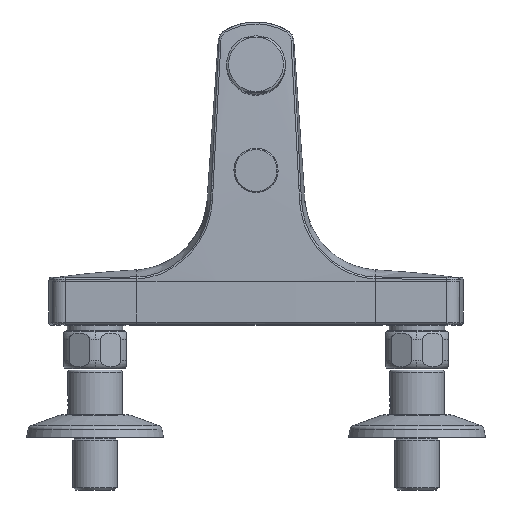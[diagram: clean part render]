
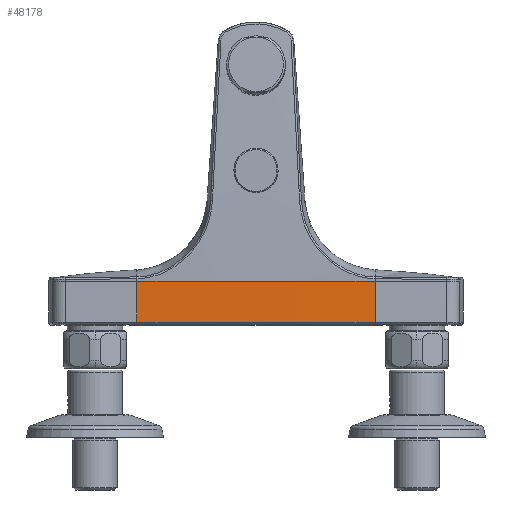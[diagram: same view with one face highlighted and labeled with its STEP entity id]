
A CAD part, front view. The second image highlights one B-rep face of the part: STEP entity #48178.
In plain terms, the highlighted cylindrical face has radius 2642.39 mm (diameter 5284.77 mm), a partial arc.
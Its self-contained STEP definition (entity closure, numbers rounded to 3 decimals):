
#8090=DIRECTION('',(0.,0.,-1.));
#8091=VECTOR('',#8090,19.496);
#8092=CARTESIAN_POINT('',(56.597,-18.782,20.626));
#8093=LINE('',#8092,#8091);
#8108=CARTESIAN_POINT('',(0.,2622.998,1.142));
#8109=DIRECTION('',(0.,0.,-1.));
#8110=DIRECTION('',(0.021,-1.,0.));
#8111=AXIS2_PLACEMENT_3D('',#8108,#8109,#8110);
#8113=CARTESIAN_POINT('',(0.,2622.998,20.626));
#8114=DIRECTION('',(0.,0.,-1.));
#8115=DIRECTION('',(0.021,-1.,0.));
#8116=AXIS2_PLACEMENT_3D('',#8113,#8114,#8115);
#8126=DIRECTION('',(0.,0.,-1.));
#8127=VECTOR('',#8126,19.496);
#8128=CARTESIAN_POINT('',(-56.597,-18.782,
20.626));
#8129=LINE('',#8128,#8127);
#29582=CARTESIAN_POINT('',(56.597,-18.782,
20.626));
#29583=CARTESIAN_POINT('',(-56.597,-18.782,
20.626));
#29584=VERTEX_POINT('',#29582);
#29585=VERTEX_POINT('',#29583);
#29726=CARTESIAN_POINT('',(56.597,-18.782,
1.13));
#29727=VERTEX_POINT('',#29726);
#29730=CARTESIAN_POINT('',(-56.597,-18.782,
1.142));
#29731=VERTEX_POINT('',#29730);
#48165=CARTESIAN_POINT('',(0.,2622.998,0.));
#48166=DIRECTION('',(0.,0.,1.));
#48167=DIRECTION('',(0.,-1.,0.));
#48168=AXIS2_PLACEMENT_3D('',#48165,#48166,#48167);
#48169=CYLINDRICAL_SURFACE('',#48168,2642.386);
#48170=ORIENTED_EDGE('',*,*,#48144,.T.);
#48172=ORIENTED_EDGE('',*,*,#48171,.F.);
#48174=ORIENTED_EDGE('',*,*,#48173,.F.);
#48175=ORIENTED_EDGE('',*,*,#48062,.T.);
#48176=EDGE_LOOP('',(#48170,#48172,#48174,#48175));
#48177=FACE_OUTER_BOUND('',#48176,.F.);
#8112=CIRCLE('',#8111,2642.386);
#8117=CIRCLE('',#8116,2642.386);
#48062=EDGE_CURVE('',#29584,#29727,#8093,.T.);
#48144=EDGE_CURVE('',#29727,#29731,#8112,.T.);
#48171=EDGE_CURVE('',#29585,#29731,#8129,.T.);
#48173=EDGE_CURVE('',#29584,#29585,#8117,.T.);
#48178=ADVANCED_FACE('',(#48177),#48169,.T.);
